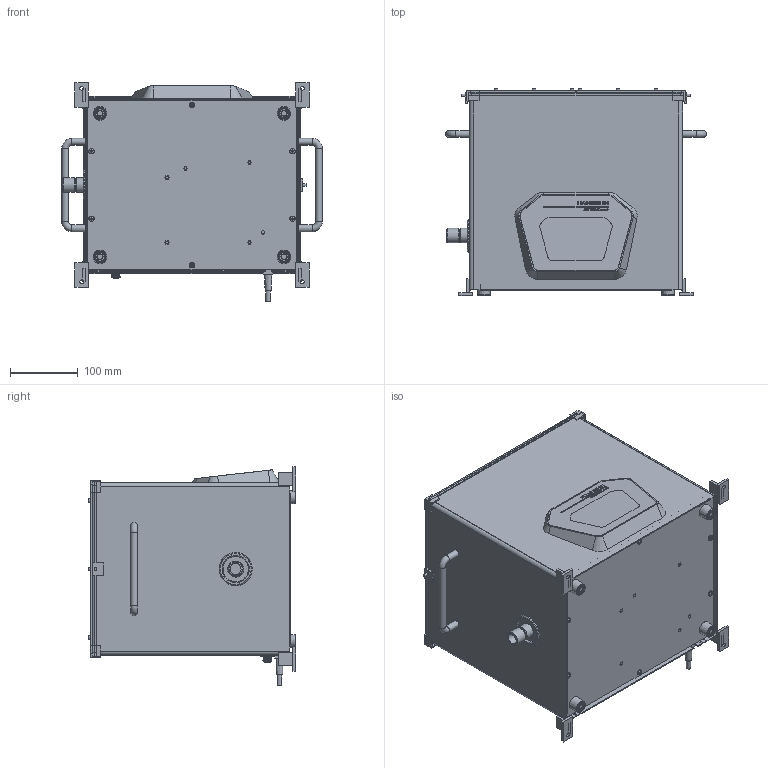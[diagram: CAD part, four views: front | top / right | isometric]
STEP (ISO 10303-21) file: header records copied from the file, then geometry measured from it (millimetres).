
FILE_DESCRIPTION(('Open CASCADE Model'),'2;1');
FILE_NAME('Open CASCADE Shape Model','2026-11-06T02:02:18',('Author'),( 'Open CASCADE'),'Open CASCADE STEP processor 7.8','Open CASCADE 7.8' ,'Unknown');
FILE_SCHEMA(('AUTOMOTIVE_DESIGN { 1 0 10303 214 1 1 1 1 }'));
Length unit declared in the file: millimetre
Products named in the file (76): Sonicator_Two_Racks_Preview_R02; Manufacturer_REFERENCE_shells; Left_independent_top_plate; Left_Guide_01; Left_M3_screw_envelope_00; Left_washer_envelope_00; Left_Guide_02; Left_M3_screw_envelope_01; Left_washer_envelope_01; Left_Guide_03; Left_M3_screw_envelope_02; Left_washer_envelope_02; Left_Guide_04; Left_M3_screw_envelope_03; Left_washer_envelope_03; Left_Vial_REFERENCE_00_00; Left_Vial_REFERENCE_00_01; Left_Vial_REFERENCE_00_02; Left_Vial_REFERENCE_00_03; Left_Vial_REFERENCE_01_00; Left_Vial_REFERENCE_01_01; Left_Vial_REFERENCE_01_02; Left_Vial_REFERENCE_01_03; Left_Vial_REFERENCE_02_00; Left_Vial_REFERENCE_02_01; Left_Vial_REFERENCE_02_02; Left_Vial_REFERENCE_02_03; Left_Vial_REFERENCE_03_00; Left_Vial_REFERENCE_03_01; Left_Vial_REFERENCE_03_02; Left_Vial_REFERENCE_03_03; Left_Rack_REFERENCE_assumed_holes; Left_locator_-1; Left_locator_1; Left_clamp_pad_CONCEPT; Left_clamp_tab_CONCEPT; Left_clamp_screw_CONCEPT; Right_independent_top_plate; Right_Guide_01; Right_M3_screw_envelope_00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
Assembly tree (75 placements, depth 2):
  Sonicator_Two_Racks_Preview_R02
    Manufacturer_REFERENCE_shells
    Left_independent_top_plate
    Left_Guide_01
    Left_M3_screw_envelope_00
    Left_washer_envelope_00
    Left_Guide_02
    Left_M3_screw_envelope_01
    Left_washer_envelope_01
    Left_Guide_03
    Left_M3_screw_envelope_02
    Left_washer_envelope_02
    Left_Guide_04
    Left_M3_screw_envelope_03
    Left_washer_envelope_03
    Left_Vial_REFERENCE_00_00
    Left_Vial_REFERENCE_00_01
    Left_Vial_REFERENCE_00_02
    Left_Vial_REFERENCE_00_03
    Left_Vial_REFERENCE_01_00
    Left_Vial_REFERENCE_01_01
    Left_Vial_REFERENCE_01_02
    Left_Vial_REFERENCE_01_03
    Left_Vial_REFERENCE_02_00
    Left_Vial_REFERENCE_02_01
    Left_Vial_REFERENCE_02_02
    Left_Vial_REFERENCE_02_03
    Left_Vial_REFERENCE_03_00
    Left_Vial_REFERENCE_03_01
    Left_Vial_REFERENCE_03_02
    Left_Vial_REFERENCE_03_03
    Left_Rack_REFERENCE_assumed_holes
    Left_locator_-1
    Left_locator_1
    Left_clamp_pad_CONCEPT
    Left_clamp_tab_CONCEPT
    Left_clamp_screw_CONCEPT
    Right_independent_top_plate
    Right_Guide_01
    Right_M3_screw_envelope_00
    Right_washer_envelope_00
    Right_Guide_02
    Right_M3_screw_envelope_01
    Right_washer_envelope_01
    Right_Guide_03
    Right_M3_screw_envelope_02
    Right_washer_envelope_02
    Right_Guide_04
    Right_M3_screw_envelope_03
    Right_washer_envelope_03
    Right_Vial_REFERENCE_00_00
    Right_Vial_REFERENCE_00_01
    Right_Vial_REFERENCE_00_02
    Right_Vial_REFERENCE_00_03
    Right_Vial_REFERENCE_01_00
    Right_Vial_REFERENCE_01_01
    Right_Vial_REFERENCE_01_02
    Right_Vial_REFERENCE_01_03
    Right_Vial_REFERENCE_02_00
    Right_Vial_REFERENCE_02_01
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Bounding box: 385 x 306.45 x 322.49 mm (x, y, z)
Volume: 1258822.7 mm3; surface area: 1405466.9 mm2
Topology: 74 solids, 160 shells, 962 faces, 3130 edges, 2424 vertices
Faces by surface type: plane 589, cylinder 233, cone 68, torus 47, bspline 17, sphere 8
Full cylindrical faces by diameter (mm): 2.5 x8, 3 x8, 3.2 x8, 4 x2, 5 x1, 5.5 x12, 6.5 x1, 7 x8, 8 x6, 9 x4, 10 x14, 13 x4, 14 x4, 16.1 x1, 16.6 x32, 17.2 x32, 18.5 x1, 21.3 x2, 49 x1
Entity records: 82453 total; most frequent: CARTESIAN_POINT 27893, DIRECTION 9356, LINE 5083, VECTOR 5083, ORIENTED_EDGE 4775, PCURVE 4775, DEFINITIONAL_REPRESENTATION 4775, EDGE_CURVE 3130
